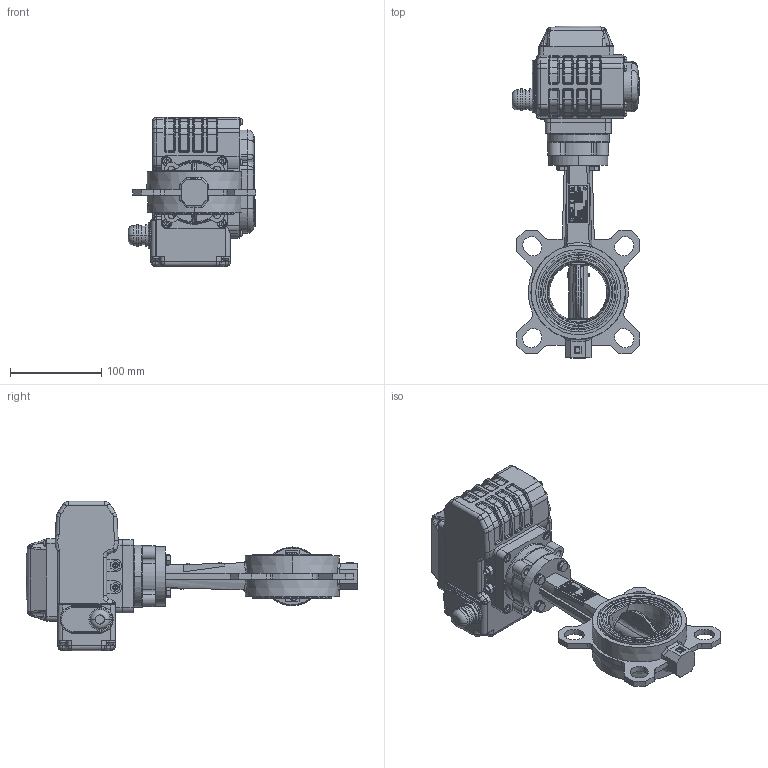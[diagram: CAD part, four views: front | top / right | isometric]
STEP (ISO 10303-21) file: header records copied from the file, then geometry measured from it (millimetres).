
FILE_DESCRIPTION (( 'STEP AP214' ), '1' );
FILE_NAME ('VPG444X-NX4XX0065.step', '2022-07-06T08:01:12', ( '' ), ( '' ), 'SwSTEP 2.0', 'SolidWorks 2020', '' );
FILE_SCHEMA (( 'AUTOMOTIVE_DESIGN' ));
Length unit declared in the file: millimetre
Products named in the file (1): VPG444X-NX4XX0065
Bounding box: 140.06 x 363.3 x 163.2 mm (x, y, z)
Surface area: 179374.1 mm2 (no closed solid volume)
Topology: 0 solids, 72 shells, 1379 faces, 6681 edges, 5228 vertices
Faces by surface type: plane 562, cylinder 438, bspline 264, cone 67, torus 48
Entity records: 104865 total; most frequent: CARTESIAN_POINT 41261, ORIENTED_EDGE 9521, DIRECTION 8394, EDGE_CURVE 6615, VERTEX_POINT 5228, LINE 3914, VECTOR 3914, AXIS2_PLACEMENT_3D 2240
